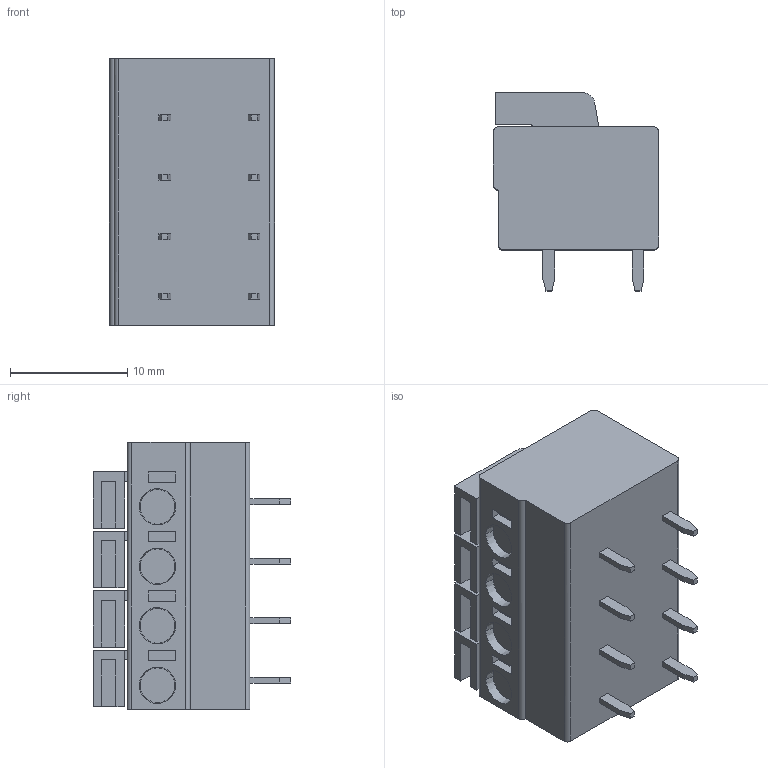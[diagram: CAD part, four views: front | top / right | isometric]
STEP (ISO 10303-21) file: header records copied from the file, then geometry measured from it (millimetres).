
FILE_DESCRIPTION((''),'2;1');
FILE_NAME('4','2020-06-12T',('P'),(''),'PRO/ENGINEER BY PARAMETRIC TECHNOLOGY CORPORATION, 2010280','PRO/ENGINEER BY PARAMETRIC TECHNOLOGY CORPORATION, 2010280','');
FILE_SCHEMA(('CONFIG_CONTROL_DESIGN'));
Length unit declared in the file: millimetre
Products named in the file (1): 4
Bounding box: 14.1 x 16.9 x 22.86 mm (x, y, z)
Volume: 3570.1 mm3; surface area: 2095.6 mm2
Topology: 1 solids, 5 shells, 202 faces, 559 edges, 387 vertices
Faces by surface type: plane 169, cylinder 25, cone 8
Entity records: 6503 total; most frequent: CARTESIAN_POINT 1201, ORIENTED_EDGE 1118, DIRECTION 1029, EDGE_CURVE 559, VECTOR 467, LINE 467, VERTEX_POINT 387, AXIS2_PLACEMENT_3D 281
